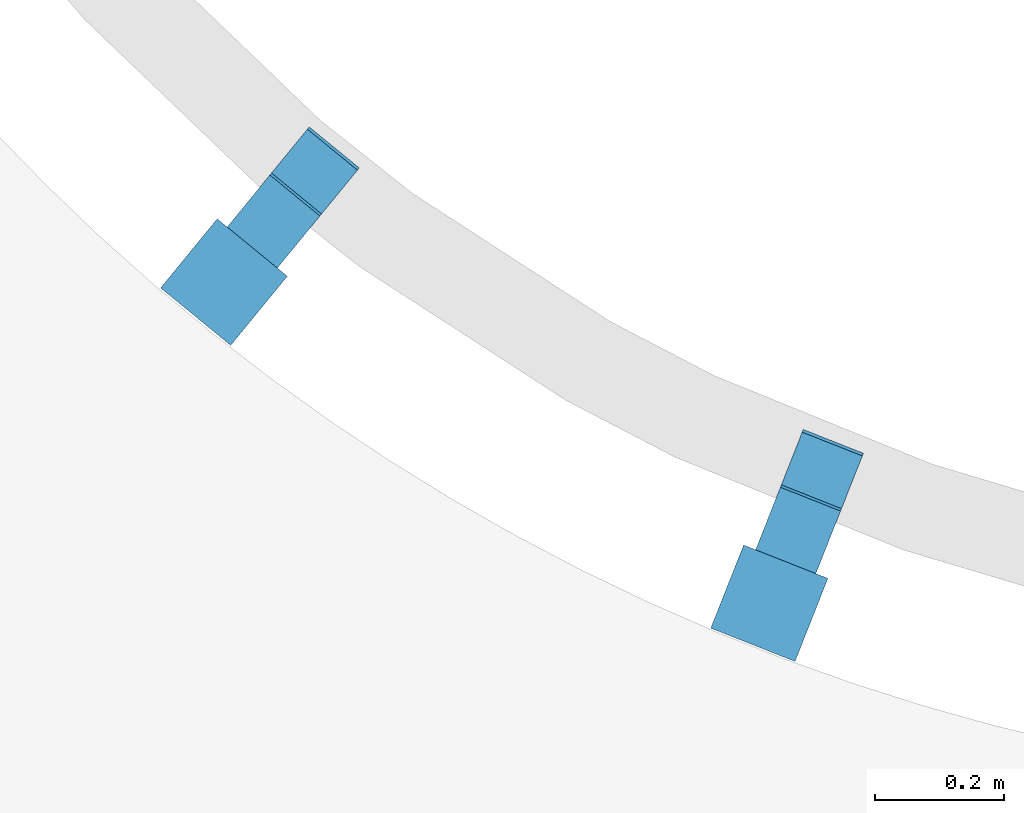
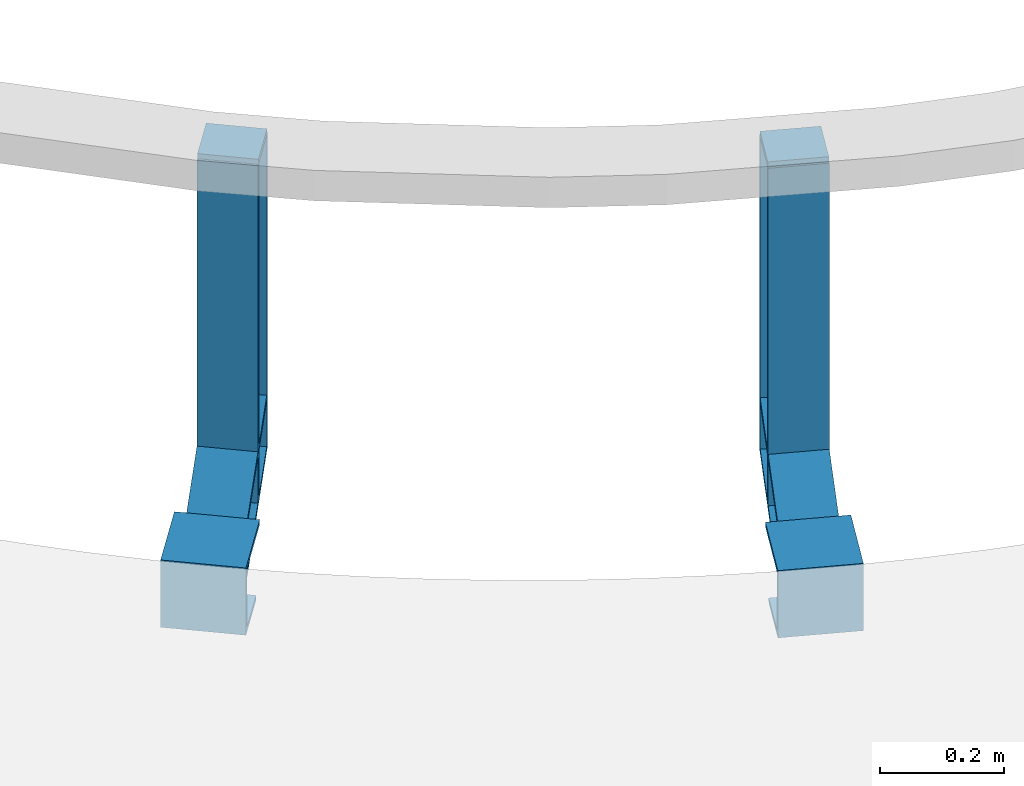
# One storey, part 32 of 68: 2 beams.
"""IFC2X3 building model written with IfcOpenShell, lengths in millimetres."""

from ifc_helpers import new_model, entity, si_unit, converted_unit, derived_unit, direction, frame, origin, place, context, subcontext, project, spatial, faceted_brep, source, transform, mapped, material, type_object, type_shapes, element, save


model = new_model("IFC2X3")

# Units and contexts
model_context = context("Model", 3, precision=0.01, world=origin(), true_north=direction((6.12303176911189e-17, 1.0)))
body_context = subcontext(model_context, "Body", "Model", "MODEL_VIEW")
ifc_project = project(units=[si_unit("LENGTHUNIT", "METRE", prefix="MILLI"), si_unit("AREAUNIT", "SQUARE_METRE", prefix="MILLI"), si_unit("VOLUMEUNIT", "CUBIC_METRE"), converted_unit("PLANEANGLEUNIT", "DEGREE", entity("IfcRatioMeasure", 0.0174532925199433), si_unit("PLANEANGLEUNIT", "RADIAN"), dimensions=[0, 0, 0, 0, 0, 0, 0]), si_unit("MASSUNIT", "GRAM", prefix="KILO"), derived_unit("MASSDENSITYUNIT", [(si_unit("MASSUNIT", "GRAM", prefix="KILO"), 1), (si_unit("LENGTHUNIT", "METRE"), -3)]), derived_unit("MOMENTOFINERTIAUNIT", [(si_unit("LENGTHUNIT", "METRE"), 4)]), si_unit("TIMEUNIT", "SECOND"), si_unit("FREQUENCYUNIT", "HERTZ"), si_unit("THERMODYNAMICTEMPERATUREUNIT", "DEGREE_CELSIUS"), derived_unit("THERMALTRANSMITTANCEUNIT", [(si_unit("MASSUNIT", "GRAM", prefix="KILO"), 1), (si_unit("THERMODYNAMICTEMPERATUREUNIT", "KELVIN"), -1), (si_unit("TIMEUNIT", "SECOND"), -3)]), derived_unit("VOLUMETRICFLOWRATEUNIT", [(si_unit("LENGTHUNIT", "METRE"), 3), (si_unit("TIMEUNIT", "SECOND"), -1)]), si_unit("ELECTRICCURRENTUNIT", "AMPERE"), si_unit("ELECTRICVOLTAGEUNIT", "VOLT"), si_unit("POWERUNIT", "WATT"), si_unit("FORCEUNIT", "NEWTON", prefix="KILO"), si_unit("ILLUMINANCEUNIT", "LUX"), si_unit("LUMINOUSFLUXUNIT", "LUMEN"), si_unit("LUMINOUSINTENSITYUNIT", "CANDELA"), derived_unit("USERDEFINED", [(si_unit("MASSUNIT", "GRAM", prefix="KILO"), -1), (si_unit("LENGTHUNIT", "METRE"), -2), (si_unit("TIMEUNIT", "SECOND"), 3), (si_unit("LUMINOUSFLUXUNIT", "LUMEN"), 1)]), derived_unit("LINEARVELOCITYUNIT", [(si_unit("LENGTHUNIT", "METRE"), 1), (si_unit("TIMEUNIT", "SECOND"), -1)]), si_unit("PRESSUREUNIT", "PASCAL"), derived_unit("USERDEFINED", [(si_unit("LENGTHUNIT", "METRE"), -2), (si_unit("MASSUNIT", "GRAM", prefix="KILO"), 1), (si_unit("TIMEUNIT", "SECOND"), -2)]), derived_unit("LINEARFORCEUNIT", [(si_unit("MASSUNIT", "GRAM", prefix="KILO"), 1), (si_unit("LENGTHUNIT", "METRE"), 1), (si_unit("TIMEUNIT", "SECOND"), -2), (si_unit("LENGTHUNIT", "METRE"), -1)]), derived_unit("PLANARFORCEUNIT", [(si_unit("MASSUNIT", "GRAM", prefix="KILO"), 1), (si_unit("LENGTHUNIT", "METRE"), 1), (si_unit("TIMEUNIT", "SECOND"), -2), (si_unit("LENGTHUNIT", "METRE"), -2)])], contexts=[model_context])

# Site, building, storey
site_placement = place(None, origin())
site = spatial("IfcSite", under=ifc_project, at=site_placement, Name="Theater aan de Parade", CompositionType="ELEMENT")
building_placement = place(site_placement, origin())
building = spatial("IfcBuilding", under=site, at=building_placement, Name="Theater aan de Parade", CompositionType="ELEMENT")
storey_placement = place(building_placement, frame((0.0, 0.0, 8750.0)))
storey = spatial("IfcBuildingStorey", under=building, at=storey_placement, Name="02 tweede verdieping", CompositionType="ELEMENT", Elevation=8750.0)

# Beams
ifc_material = material(Name="00_PBT_MAT_staal_S355")
beam_type = type_object("IfcBeamType", Name="28_PBT_SF_staal_baluster balkon:baluster HEA100", PredefinedType="BEAM", material=ifc_material)
shared_shape = source(origin(), body_context, "Body", "Brep", [
    faceted_brep([(50.0, -43.537813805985, 625.0), (50.0, 44.0, 625.0), (50.0, 44.0, 635.0), (50.0, -43.537813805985, 635.0), (-50.0, -43.537813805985, 625.0), (-50.0, -43.537813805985, 635.0), (-50.0, 44.0, 635.0), (-50.0, 44.0, 625.0)], [[[0, 1, 2, 3]], [[4, 5, 6, 7]], [[1, 0, 4, 7]], [[2, 1, 7, 6]], [[3, 2, 6, 5]], [[0, 3, 5, 4]]]),
    faceted_brep([(70.0, 278.0, -133.0), (70.0, 290.0, -133.0), (70.0, 290.0, 0.0), (70.0, 278.0, 0.0), (-70.0, 278.0, -133.0), (-70.0, 278.0, 0.0), (-70.0, 290.0, 0.0), (-70.0, 290.0, -133.0)], [[[0, 1, 2, 3]], [[4, 5, 6, 7]], [[1, 0, 4, 7]], [[2, 1, 7, 6]], [[3, 2, 6, 5]], [[0, 3, 5, 4]]]),
    faceted_brep([(14.7499999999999, 278.0, -124.5), (70.0, 278.0, -124.5), (70.0, 278.0, -133.0), (-70.0, 278.0, -133.0), (-70.0, 278.0, -124.500000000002), (-14.7500000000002, 278.0, -124.500000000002), (-11.6441714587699, 278.0, -124.091109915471), (-8.75000000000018, 278.0, -122.892304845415), (-6.26471862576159, 278.0, -120.98528137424), (-4.3576951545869, 278.0, -118.500000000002), (-3.15889008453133, 278.0, -115.605828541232), (-2.75000000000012, 278.0, -112.500000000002), (-2.75000000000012, 278.0, -20.500000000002), (-3.15889008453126, 278.0, -17.3941714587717), (-4.35769515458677, 278.0, -14.500000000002), (-6.26471862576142, 278.0, -12.0147186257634), (-8.74999999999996, 278.0, -10.1076951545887), (-11.6441714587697, 278.0, -8.90889008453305), (-14.7500000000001, 278.0, -8.50000000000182), (-70.0, 278.0, -8.50000000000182), (-70.0, 278.0, 0.0), (70.0, 278.0, 0.0), (70.0, 278.0, -8.50000000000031), (14.7499999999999, 278.0, -8.50000000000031), (11.6441714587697, 278.0, -8.90889008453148), (8.74999999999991, 278.0, -10.107695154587), (6.26471862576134, 278.0, -12.0147186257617), (4.35769515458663, 278.0, -14.5000000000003), (3.15889008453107, 278.0, -17.39417145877), (2.74999999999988, 278.0, -20.5000000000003), (2.74999999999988, 278.0, -112.5), (3.15889008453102, 278.0, -115.60582854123), (4.35769515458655, 278.0, -118.5), (6.26471862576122, 278.0, -120.985281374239), (8.74999999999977, 278.0, -122.892304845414), (11.6441714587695, 278.0, -124.091109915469), (70.0, 151.923048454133, 0.0), (70.0, 154.37480362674, -8.50000000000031), (70.0, 187.834050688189, -124.5), (70.0, 190.285805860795, -133.0), (14.7499999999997, 154.37480362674, -8.50000000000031), (14.7499999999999, 214.85290376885, -8.50000000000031), (-14.7500000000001, 214.852897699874, -8.50000000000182), (-14.7500000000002, 154.37480362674, -8.50000000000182), (-70.0, 154.37480362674, -8.50000000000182), (6.43965673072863, 216.327371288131, -11.8433150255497), (2.74999999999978, 217.521900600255, -20.5000000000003), (12.079748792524, 154.461585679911, -8.8008650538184), (9.5433951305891, 154.717580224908, -9.68837358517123), (7.26812237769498, 155.129950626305, -11.1180222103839), (5.36802221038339, 155.678018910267, -13.0181223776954), (3.05086505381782, 157.065893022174, -17.8297487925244), (2.74999999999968, 157.83610504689, -20.5000000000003), (3.9383735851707, 156.334302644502, -15.2933951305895), (2.74999999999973, 184.372749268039, -112.5), (3.93837358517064, 185.874551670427, -117.706604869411), (3.05086505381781, 185.142961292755, -115.170251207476), (5.36802221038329, 186.530835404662, -119.981877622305), (7.26812237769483, 187.078903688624, -121.881977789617), (9.54339513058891, 187.491274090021, -123.311626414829), (12.0797487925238, 187.747268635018, -124.199134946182), (14.7499999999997, 187.834050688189, -124.5), (-70.0, 187.83405068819, -124.500000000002), (-14.7500000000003, 187.83405068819, -124.500000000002), (-70.0, 190.285805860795, -133.0), (-70.0, 151.923048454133, 0.0), (-9.54339513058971, 187.491274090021, -123.311626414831), (-12.0797487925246, 187.747268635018, -124.199134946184), (-7.2681223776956, 187.078903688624, -121.881977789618), (-5.36802221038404, 186.530835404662, -119.981877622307), (-3.93837358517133, 185.874551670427, -117.706604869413), (-3.05086505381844, 185.142961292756, -115.170251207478), (-2.75000000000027, 184.37274926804, -112.500000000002), (-2.75000000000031, 157.83610504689, -20.500000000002), (-2.75000000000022, 217.521907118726, -20.5000000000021), (-6.43965718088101, 216.327373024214, -11.8433145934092), (-3.05086505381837, 157.065893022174, -17.8297487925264), (-3.93837358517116, 156.334302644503, -15.2933951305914), (-5.36802221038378, 155.678018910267, -13.0181223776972), (-7.2681223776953, 155.129950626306, -11.1180222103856), (-9.54339513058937, 154.717580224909, -9.68837358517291), (-12.0797487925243, 154.461585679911, -8.80086505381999)], [[[0, 1, 2, 3, 4, 5, 6, 7, 8, 9, 10, 11, 12, 13, 14, 15, 16, 17, 18, 19, 20, 21, 22, 23, 24, 25, 26, 27, 28, 29, 30, 31, 32, 33, 34, 35]], [[22, 21, 36, 37]], [[2, 1, 38, 39]], [[23, 22, 37, 40, 41]], [[19, 18, 42, 43, 44]], [[24, 45, 25]], [[25, 45, 26]], [[27, 45, 46]], [[41, 40, 47]], [[23, 41, 24]], [[27, 26, 45]], [[41, 47, 48]], [[45, 49, 50]], [[46, 29, 28]], [[48, 45, 41]], [[46, 28, 27]], [[51, 52, 46]], [[51, 46, 53]], [[45, 53, 46]], [[50, 53, 45]], [[48, 49, 45]], [[41, 45, 24]], [[30, 29, 46, 52, 54]], [[55, 32, 31]], [[56, 31, 30]], [[30, 54, 56]], [[32, 55, 57]], [[55, 31, 56]], [[57, 33, 32]], [[34, 33, 58]], [[35, 34, 59]], [[0, 35, 60]], [[34, 58, 59]], [[0, 60, 61]], [[60, 35, 59]], [[57, 58, 33]], [[1, 0, 61, 38]], [[5, 4, 62, 63]], [[3, 2, 39, 64]], [[4, 3, 64, 62]], [[20, 19, 44, 65]], [[66, 7, 6]], [[67, 6, 5]], [[5, 63, 67]], [[7, 66, 68]], [[66, 6, 67]], [[68, 8, 7]], [[9, 8, 69]], [[10, 9, 70]], [[11, 10, 71]], [[9, 69, 70]], [[11, 71, 72]], [[71, 10, 70]], [[68, 69, 8]], [[12, 11, 72, 73, 74]], [[74, 14, 13]], [[75, 15, 14]], [[17, 16, 75]], [[74, 73, 76]], [[16, 15, 75]], [[76, 77, 74]], [[75, 78, 79]], [[80, 81, 42]], [[77, 75, 74]], [[12, 74, 13]], [[75, 42, 17]], [[42, 18, 17]], [[42, 81, 43]], [[75, 80, 42]], [[80, 75, 79]], [[77, 78, 75]], [[75, 14, 74]], [[21, 20, 65, 36]], [[61, 60, 59, 58, 57, 55, 56, 54, 52, 51, 53, 50, 49, 48, 47, 40, 37, 36, 65, 44, 43, 81, 80, 79, 78, 77, 76, 73, 72, 71, 70, 69, 68, 66, 67, 63, 62, 64, 39, 38]]]),
    faceted_brep([(50.0, 155.119944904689, -11.0833333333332), (50.0, 151.923048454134, 0.0), (50.0, -48.0, 115.425625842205), (50.0, -48.0, 106.188021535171), (50.0, 190.285805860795, -133.0), (50.0, 187.08890941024, -121.916666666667), (50.0, -48.0, 13.8119784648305), (50.0, -48.0, 4.57437415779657), (14.4999999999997, 155.119944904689, -11.0833333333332), (14.4999999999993, -48.0, 106.188021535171), (14.4999999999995, 4.37555520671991, 75.9489806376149), (14.4999999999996, 56.7511250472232, 45.7099312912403), (-50.0, 155.119944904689, -11.0833333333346), (-14.5000000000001, 155.119944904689, -11.0833333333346), (-14.5000000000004, 56.7511361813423, 45.7099248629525), (-14.5000000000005, 4.37556274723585, 75.9489762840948), (-14.5000000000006, -48.0, 106.188021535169), (-50.0, -48.0, 106.188021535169), (12.1589161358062, 155.212086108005, -11.4027780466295), (6.13940978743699, 85.6560198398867, 25.105130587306), (9.9077988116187, 155.484968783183, -12.348836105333), (2.80086505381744, -48.0, 95.4149555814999), (2.49999999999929, -48.0, 92.3316150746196), (2.49999999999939, 4.37556701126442, 62.092567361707), (2.49999999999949, 55.164155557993, 32.7697620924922), (6.04197655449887, 10.2229142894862, 68.5459327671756), (2.49999999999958, 107.539722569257, 2.53071437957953), (2.49999999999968, 159.915289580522, -27.7083333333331), (2.73057663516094, 158.979764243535, -24.4649567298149), (7.83315720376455, 155.92810620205, -13.8851510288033), (11.8297487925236, -48.0, 105.840612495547), (3.41344560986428, 158.0801906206, -21.3462212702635), (4.52236465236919, 157.25113882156, -18.4719782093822), (7.01812237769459, -48.0, 103.164989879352), (5.11802221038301, -48.0, 100.970943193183), (3.68837358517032, -48.0, 98.3436845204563), (9.29339513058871, -48.0, 104.815805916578), (6.01471862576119, 156.524468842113, -15.9526830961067), (2.49999999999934, -48.0, 27.6683849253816), (2.49999999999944, 4.37556959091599, -2.57066427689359), (2.49999999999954, 56.7511354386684, -32.8097113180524), (2.49999999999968, 129.917998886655, -75.052619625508), (2.49999999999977, 182.293564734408, -105.291666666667), (4.52236465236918, 184.957715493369, -114.528021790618), (6.30956465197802, 103.743785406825, -70.0679088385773), (6.01471862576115, 185.684385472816, -117.047316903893), (14.4999999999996, 134.713341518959, -91.6776184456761), (9.90779881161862, 186.723885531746, -120.651163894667), (7.83315720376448, 186.280748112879, -119.114848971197), (12.1589161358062, 186.996768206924, -121.597221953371), (14.4999999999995, 69.5444547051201, -54.0523441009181), (5.87838992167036, 26.3899882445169, -24.9186641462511), (14.4999999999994, 4.3755678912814, -16.4270697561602), (5.11802221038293, -48.0, 19.0290568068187), (3.4134456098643, 184.128663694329, -111.653778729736), (2.80086505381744, -48.0, 24.5850444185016), (3.68837358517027, -48.0, 21.6563154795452), (14.4999999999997, 187.08890941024, -121.916666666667), (7.01812237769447, -48.0, 16.8350101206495), (9.29339513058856, -48.0, 15.1841940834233), (2.73057663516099, 183.229090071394, -108.535043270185), (14.4999999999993, -48.0, 13.8119784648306), (11.8297487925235, -48.0, 14.1593875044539), (-50.0, 187.088909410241, -121.916666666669), (-50.0, -48.0, 13.8119784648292), (-14.5000000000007, -48.0, 13.8119784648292), (-14.5000000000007, 4.37556899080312, -16.4270703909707), (-14.5000000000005, 69.5444561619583, -54.0523449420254), (-14.5000000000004, 134.713343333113, -91.6776194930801), (-14.5000000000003, 187.088909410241, -121.916666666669), (-50.0, 190.285805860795, -133.0), (-50.0, -48.0, 4.57437415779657), (-50.0, 151.923048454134, 0.0), (-50.0, -48.0, 115.425625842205), (-6.30956482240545, 103.743788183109, -70.0679106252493), (-3.41344560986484, 184.128663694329, -111.653778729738), (-4.52236465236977, 184.95771549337, -114.52802179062), (-2.50000000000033, 129.917999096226, -75.0526197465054), (-9.29339513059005, -48.0, 15.1841940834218), (-7.01812237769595, -48.0, 16.835010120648), (-5.87838988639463, 26.389986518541, -24.9186631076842), (-7.8331572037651, 186.28074811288, -119.114848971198), (-6.01471862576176, 185.684385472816, -117.047316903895), (-11.829748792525, -48.0, 14.1593875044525), (-5.11802221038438, -48.0, 19.0290568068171), (-2.50000000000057, 4.37557526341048, -2.57066755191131), (-2.50000000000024, 182.293564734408, -105.291666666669), (-2.7305766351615, 183.229090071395, -108.535043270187), (-9.90779881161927, 186.723885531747, -120.651163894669), (-12.1589161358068, 186.996768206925, -121.597221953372), (-2.80086505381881, -48.0, 24.5850444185), (-2.50000000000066, -48.0, 27.6683849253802), (-2.50000000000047, 56.7511409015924, -32.8097144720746), (-3.68837358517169, -48.0, 21.6563154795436), (-2.50000000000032, 159.915289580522, -27.708333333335), (-2.50000000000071, -48.0, 92.3316150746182), (-2.50000000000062, 4.37556371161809, 62.0925692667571), (-2.50000000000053, 55.1641543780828, 32.7697627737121), (-2.50000000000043, 107.539718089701, 2.53071696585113), (-2.73057663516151, 158.979764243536, -24.464956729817), (-11.8297487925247, -48.0, 105.840612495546), (-6.01471862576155, 156.524468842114, -15.9526830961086), (-6.13940988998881, 85.6560228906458, 25.1051289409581), (-7.83315720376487, 155.92810620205, -13.885151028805), (-5.11802221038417, -48.0, 100.970943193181), (-7.0181223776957, -48.0, 103.16498987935), (-6.04197656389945, 10.2229155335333, 68.5459320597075), (-9.90779881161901, 155.484968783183, -12.3488361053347), (-4.52236465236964, 157.25113882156, -18.4719782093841), (-2.80086505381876, -48.0, 95.4149555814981), (-3.68837358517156, -48.0, 98.3436845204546), (-12.1589161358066, 155.212086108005, -11.402778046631), (-3.41344560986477, 158.080190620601, -21.3462212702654), (-9.29339513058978, -48.0, 104.815805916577)], [[[0, 1, 2, 3]], [[4, 5, 6, 7]], [[8, 0, 3, 9, 10, 11]], [[12, 13, 14, 15, 16, 17]], [[18, 19, 20]], [[21, 22, 23]], [[23, 24, 25]], [[26, 27, 28]], [[29, 20, 19]], [[26, 19, 24]], [[10, 25, 11]], [[8, 11, 18]], [[18, 11, 19]], [[11, 25, 19]], [[19, 25, 24]], [[10, 9, 30]], [[31, 32, 26]], [[33, 34, 25]], [[35, 25, 34]], [[23, 25, 35]], [[33, 25, 36]], [[28, 31, 26]], [[37, 19, 32]], [[36, 10, 30]], [[19, 26, 32]], [[21, 23, 35]], [[25, 10, 36]], [[29, 19, 37]], [[27, 26, 24, 23, 22, 38, 39, 40, 41, 42]], [[43, 44, 45]], [[46, 47, 48]], [[49, 47, 46]], [[50, 51, 52]], [[51, 39, 53]], [[44, 43, 54]], [[39, 38, 55]], [[56, 39, 55]], [[46, 57, 49]], [[44, 41, 40]], [[51, 53, 58]], [[44, 48, 45]], [[58, 59, 51]], [[44, 54, 41]], [[60, 41, 54]], [[51, 44, 40]], [[61, 52, 62]], [[51, 40, 39]], [[50, 46, 44]], [[46, 48, 44]], [[53, 39, 56]], [[60, 42, 41]], [[62, 52, 59]], [[50, 44, 51]], [[59, 52, 51]], [[5, 57, 46, 50, 52, 61, 6]], [[63, 64, 65, 66, 67, 68, 69]], [[70, 4, 7, 71]], [[63, 70, 71, 64]], [[72, 12, 17, 73]], [[74, 68, 67]], [[74, 75, 76]], [[75, 74, 77]], [[78, 79, 80]], [[81, 74, 82]], [[78, 66, 83]], [[84, 85, 80]], [[77, 86, 87]], [[68, 81, 88]], [[89, 68, 88]], [[90, 91, 85]], [[80, 74, 67]], [[66, 78, 80]], [[74, 80, 92]], [[66, 65, 83]], [[92, 80, 85]], [[90, 85, 93]], [[85, 84, 93]], [[81, 68, 74]], [[79, 84, 80]], [[68, 89, 69]], [[76, 82, 74]], [[92, 77, 74]], [[75, 77, 87]], [[66, 80, 67]], [[94, 86, 77, 92, 85, 91, 95, 96, 97, 98]], [[98, 99, 94]], [[100, 16, 15]], [[101, 102, 103]], [[104, 105, 106]], [[103, 102, 107]], [[108, 102, 101]], [[102, 106, 14]], [[102, 97, 106]], [[108, 98, 102]], [[96, 109, 110]], [[102, 111, 107]], [[96, 106, 97]], [[104, 106, 110]], [[99, 98, 112]], [[106, 15, 14]], [[108, 112, 98]], [[100, 15, 113]], [[111, 102, 14]], [[110, 106, 96]], [[98, 97, 102]], [[15, 106, 113]], [[14, 13, 111]], [[113, 106, 105]], [[96, 95, 109]], [[1, 72, 73, 2]], [[61, 62, 59, 58, 53, 56, 55, 38, 22, 21, 35, 34, 33, 36, 30, 9, 3, 2, 73, 17, 16, 100, 113, 105, 104, 110, 109, 95, 91, 90, 93, 84, 79, 78, 83, 65, 64, 71, 7, 6]], [[8, 18, 20, 29, 37, 32, 31, 28, 27, 42, 60, 54, 43, 45, 48, 47, 49, 57, 5, 4, 70, 63, 69, 89, 88, 81, 82, 76, 75, 87, 86, 94, 99, 112, 108, 101, 103, 107, 111, 13, 12, 72, 1, 0]]]),
    faceted_brep([(14.4999999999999, 40.0, 625.0), (50.0, 40.0, 625.0), (50.0, 48.0, 625.0), (-50.0, 48.0, 625.0), (-50.0, 40.0, 625.0), (-14.5000000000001, 40.0, 625.0), (-11.3941714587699, 39.5911099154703, 625.0), (-8.50000000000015, 38.3923048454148, 625.0), (-6.01471862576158, 36.4852813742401, 625.0), (-4.10769515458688, 34.0, 625.0), (-2.90889008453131, 31.1058285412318, 625.0), (-2.50000000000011, 28.0, 625.0), (-2.50000000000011, -28.0, 625.0), (-2.90889008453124, -31.1058285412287, 625.0), (-4.10769515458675, -34.0, 625.0), (-6.01471862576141, -36.4852813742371, 625.0), (-8.49999999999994, -38.3923048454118, 625.0), (-11.3941714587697, -39.5911099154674, 625.0), (-14.5000000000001, -40.0, 625.0), (-50.0, -40.0, 625.0), (-50.0, -48.0, 625.0), (50.0, -48.0, 625.0), (50.0, -40.0, 625.0), (14.4999999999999, -40.0, 625.0), (11.3941714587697, -39.5911099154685, 625.0), (8.49999999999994, -38.392304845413, 625.0), (6.01471862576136, -36.4852813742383, 625.0), (4.10769515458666, -34.0, 625.0), (2.90889008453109, -31.10582854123, 625.0), (2.49999999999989, -28.0, 625.0), (2.49999999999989, 28.0, 625.0), (2.90889008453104, 31.1058285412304, 625.0), (4.10769515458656, 34.0, 625.0), (6.01471862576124, 36.4852813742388, 625.0), (8.4999999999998, 38.3923048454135, 625.0), (11.3941714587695, 39.5911099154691, 625.0), (50.0, -48.0, 165.0), (50.0, -48.0, 4.57437415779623), (50.0, -40.0, -0.0444279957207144), (50.0, 40.0, -46.2324495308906), (50.0, 48.0, -50.8512516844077), (14.4999999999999, -40.0, -0.0444279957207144), (14.4999999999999, -40.0, 60.433662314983), (14.4999999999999, -40.0, 156.216673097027), (14.4999999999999, -40.0, 234.347235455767), (14.4999999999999, -40.0, 312.477797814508), (14.4999999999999, -40.0, 390.608336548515), (14.4999999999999, -40.0, 468.738898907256), (14.4999999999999, -40.0, 564.521909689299), (-14.4999999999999, -40.0, 564.521898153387), (-14.4999999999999, -40.0, 468.738893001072), (-14.4999999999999, -40.0, 390.608339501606), (-14.4999999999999, -40.0, 312.477786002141), (-14.5, -40.0, 234.347232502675), (-14.5, -40.0, 156.21667900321), (-14.5, -40.0, 60.4336544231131), (-14.5, -40.0, -0.0444279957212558), (-50.0, -40.0, -0.0444279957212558), (6.01471822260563, -36.4852809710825, 534.282851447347), (6.38111782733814, -36.8365011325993, 422.595542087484), (2.49999999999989, -28.0, 429.969869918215), (2.49999999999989, -28.0, 504.043806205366), (7.01812237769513, -37.3819777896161, -1.55594382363), (5.87838991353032, -36.3467262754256, 83.7445110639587), (9.29339513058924, -38.8116264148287, -0.730535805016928), (2.49999999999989, -28.0, 564.521903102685), (5.11802221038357, -35.4818776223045, -2.65296716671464), (11.8297487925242, -39.6991349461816, -0.21813251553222), (5.33717277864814, -35.7487158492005, 157.721305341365), (6.03175640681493, -36.5022850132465, 273.412504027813), (2.49999999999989, -28.0, 113.983554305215), (2.80086505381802, -30.6702512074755, -5.43096097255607), (2.49999999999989, -28.0, -6.97263122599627), (2.49999999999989, -28.0, 53.5054574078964), (6.45584074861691, -36.9045775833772, 351.543056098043), (3.68837358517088, -33.2066048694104, -3.96659650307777), (2.49999999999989, -28.0, 174.461651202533), (2.49999999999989, -28.0, 234.939748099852), (2.49999999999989, -28.0, 332.454809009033), (2.49999999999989, 28.0, -39.3042463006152), (2.49999999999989, 28.0, 21.173847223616), (2.49999999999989, 28.0, 81.6519407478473), (2.49999999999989, 28.0, 171.891681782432), (2.49999999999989, 28.0, 277.489637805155), (2.49999999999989, 28.0, 383.087609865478), (2.49999999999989, 28.0, 443.56570338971), (2.49999999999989, 28.0, 504.043796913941), (2.49999999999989, 28.0, 564.521906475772), (14.4999999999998, 40.0, 564.521898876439), (6.01471890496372, 36.4852816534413, 534.282850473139), (14.4999999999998, 40.0, 457.191892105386), (14.4999999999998, 40.0, 74.7237437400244), (5.87838987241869, 36.3467262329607, 51.4128968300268), (14.4999999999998, 40.0, 14.245651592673), (7.12980766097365, 37.4699664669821, 128.3887480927), (14.4999999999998, 40.0, 182.05375948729), (5.68142979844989, 36.138354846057, 331.335798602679), (14.4999999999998, 40.0, 289.383775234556), (14.4999999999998, 40.0, 373.287833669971), (6.48410362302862, 36.9300282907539, 264.631830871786), (3.68837358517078, 33.2066048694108, -42.3102810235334), (5.11802221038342, 35.481877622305, -43.6239103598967), (11.8297487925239, 39.6991349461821, -46.058745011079), (14.4999999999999, 40.0, -46.2324495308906), (9.29339513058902, 38.8116264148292, -45.5463417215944), (7.01812237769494, 37.3819777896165, -44.7209337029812), (5.85986411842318, 36.3275477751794, 197.731198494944), (5.34384824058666, 35.7566026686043, 460.437179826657), (2.80086505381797, 30.6702512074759, -40.8459165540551), (6.59968170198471, 37.0324399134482, 396.193688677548), (-50.0, 40.0, -46.2324495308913), (-14.5000000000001, 40.0, -46.2324495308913), (-14.5000000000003, 40.0, 14.245637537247), (-14.5000000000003, 40.0, 121.575655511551), (-14.5000000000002, 40.0, 205.479712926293), (-14.5000000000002, 40.0, 289.383770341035), (-14.5000000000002, 40.0, 373.287827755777), (-14.5000000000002, 40.0, 457.191885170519), (-14.5000000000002, 40.0, 564.521903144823), (-50.0, 48.0, -50.8512516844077), (-50.0, -48.0, 4.57437415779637), (-50.0, -48.0, 165.0), (-6.01471845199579, 36.4852812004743, 534.282853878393), (-5.34384807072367, 35.7566024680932, 460.437182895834), (-2.5000000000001, 28.0, 504.043796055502), (-2.5000000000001, 28.0, 564.521888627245), (-7.01812237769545, 37.3819777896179, -44.720933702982), (-9.29339513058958, 38.8116264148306, -45.5463417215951), (-5.68142973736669, 36.1383547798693, 331.33579885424), (-6.3722320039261, 36.8283286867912, 262.824412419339), (-2.5000000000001, 28.0, 383.087610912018), (-6.59968165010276, 37.0324398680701, 396.193689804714), (-11.8297487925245, 39.6991349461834, -46.0587450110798), (-6.18948395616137, 36.6565191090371, 51.4128959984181), (-5.11802221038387, 35.4818776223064, -43.6239103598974), (-3.68837358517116, 33.2066048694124, -42.3102810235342), (-2.80086505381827, 30.6702512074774, -40.8459165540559), (-2.5000000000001, 28.0, 21.1738462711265), (-2.5000000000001, 28.0, 81.6519388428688), (-5.3518166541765, 35.7659990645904, 125.002033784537), (-2.5000000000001, 28.0, -39.3042463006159), (-2.5000000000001, 28.0, 277.489637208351), (-2.5000000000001, 28.0, 443.56570348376), (-2.5000000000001, 28.0, 171.891682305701), (-5.88018165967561, 36.3485766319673, 194.135386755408), (-2.50000000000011, -28.0, -6.97263122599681), (-2.50000000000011, -28.0, 53.5054568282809), (-2.50000000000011, -28.0, 113.983561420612), (-2.50000000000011, -28.0, 174.461666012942), (-2.50000000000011, -28.0, 234.93975406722), (-2.50000000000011, -28.0, 332.454811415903), (-2.50000000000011, -28.0, 429.969885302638), (-2.50000000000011, -28.0, 504.043823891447), (-2.50000000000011, -28.0, 564.521911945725), (-9.29339513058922, -38.8116264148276, -0.730535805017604), (-5.8783899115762, -36.3467262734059, 83.7445122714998), (-5.33717271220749, -35.7487157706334, 157.721307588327), (-6.0147187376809, -36.4852814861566, 534.282853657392), (-6.45584072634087, -36.9045775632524, 351.543059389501), (-6.38111797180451, -36.8365012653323, 422.595548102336), (-2.80086505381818, -30.6702512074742, -5.43096097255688), (-3.688373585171, -33.2066048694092, -3.96659650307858), (-5.11802221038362, -35.4818776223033, -2.65296716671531), (-7.01812237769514, -37.3819777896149, -1.55594382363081), (-6.03175635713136, -36.5022849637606, 273.412506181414), (-11.8297487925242, -39.6991349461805, -0.218132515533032)], [[[0, 1, 2, 3, 4, 5, 6, 7, 8, 9, 10, 11, 12, 13, 14, 15, 16, 17, 18, 19, 20, 21, 22, 23, 24, 25, 26, 27, 28, 29, 30, 31, 32, 33, 34, 35]], [[22, 21, 36, 37, 38]], [[2, 1, 39, 40]], [[23, 22, 38, 41, 42, 43, 44, 45, 46, 47, 48]], [[19, 18, 49, 50, 51, 52, 53, 54, 55, 56, 57]], [[58, 26, 25]], [[26, 58, 27]], [[48, 47, 58]], [[59, 60, 61]], [[62, 63, 64]], [[28, 27, 65]], [[63, 62, 66]], [[42, 41, 67]], [[68, 69, 44]], [[63, 70, 68]], [[58, 61, 65]], [[42, 63, 43]], [[68, 43, 63]], [[64, 42, 67]], [[24, 23, 48]], [[71, 72, 73]], [[25, 48, 58]], [[69, 74, 45]], [[45, 74, 46]], [[65, 27, 58]], [[24, 48, 25]], [[71, 73, 75]], [[64, 63, 42]], [[70, 63, 73]], [[73, 66, 75]], [[58, 59, 61]], [[66, 73, 63]], [[65, 29, 28]], [[44, 69, 45]], [[76, 77, 68, 70]], [[44, 43, 68]], [[77, 78, 69]], [[78, 60, 74]], [[77, 69, 68]], [[59, 46, 74]], [[59, 74, 60]], [[78, 74, 69]], [[59, 47, 46]], [[47, 59, 58]], [[30, 29, 65, 61, 60, 78, 77, 76, 70, 73, 72, 79, 80, 81, 82, 83, 84, 85, 86, 87]], [[34, 88, 35]], [[89, 90, 88]], [[91, 92, 93]], [[33, 89, 34]], [[81, 80, 92]], [[94, 91, 95]], [[32, 89, 33]], [[96, 97, 98]], [[97, 96, 99]], [[100, 101, 92]], [[87, 86, 89]], [[31, 87, 32]], [[100, 92, 80]], [[102, 103, 93]], [[102, 93, 104]], [[32, 87, 89]], [[101, 105, 92]], [[93, 105, 104]], [[106, 95, 99]], [[88, 34, 89]], [[107, 89, 86]], [[88, 0, 35]], [[80, 108, 100]], [[80, 79, 108]], [[105, 93, 92]], [[31, 30, 87]], [[106, 94, 95]], [[94, 82, 81]], [[90, 89, 107]], [[92, 94, 81]], [[91, 94, 92]], [[82, 94, 106]], [[109, 98, 90]], [[107, 85, 109]], [[84, 109, 85]], [[109, 96, 98]], [[96, 84, 83]], [[106, 83, 82]], [[99, 96, 83]], [[97, 99, 95]], [[106, 99, 83]], [[96, 109, 84]], [[107, 86, 85]], [[107, 109, 90]], [[1, 0, 88, 90, 98, 97, 95, 91, 93, 103, 39]], [[5, 4, 110, 111, 112, 113, 114, 115, 116, 117, 118]], [[3, 2, 40, 119]], [[4, 3, 119, 110]], [[20, 19, 57, 120, 121]], [[8, 7, 122]], [[7, 118, 122]], [[123, 124, 122]], [[124, 125, 122]], [[126, 112, 127]], [[6, 5, 118]], [[6, 118, 7]], [[123, 122, 117]], [[128, 115, 129]], [[128, 130, 131]], [[112, 111, 132]], [[133, 126, 134]], [[8, 122, 9]], [[133, 113, 112]], [[133, 134, 135]], [[136, 137, 135]], [[118, 117, 122]], [[135, 137, 133]], [[138, 139, 133]], [[138, 133, 137]], [[122, 125, 9]], [[137, 136, 140]], [[127, 112, 132]], [[125, 11, 10]], [[112, 126, 133]], [[10, 9, 125]], [[113, 133, 139]], [[128, 141, 130]], [[142, 124, 123]], [[123, 117, 131]], [[115, 128, 116]], [[116, 128, 131]], [[139, 138, 143]], [[144, 114, 113]], [[113, 139, 144]], [[143, 144, 139]], [[144, 141, 129]], [[115, 114, 129]], [[144, 143, 141]], [[128, 129, 141]], [[144, 129, 114]], [[116, 131, 117]], [[130, 142, 131]], [[142, 123, 131]], [[11, 125, 124, 142, 130, 141, 143, 138, 137, 140, 145, 146, 147, 148, 149, 150, 151, 152, 153, 12]], [[49, 17, 16]], [[154, 55, 155]], [[156, 147, 155]], [[157, 153, 152]], [[14, 157, 15]], [[157, 16, 15]], [[158, 51, 159]], [[157, 50, 49]], [[160, 161, 146]], [[156, 155, 54]], [[49, 18, 17]], [[13, 153, 14]], [[12, 153, 13]], [[155, 162, 163]], [[151, 158, 159]], [[14, 153, 157]], [[146, 145, 160]], [[163, 154, 155]], [[155, 147, 146]], [[146, 162, 155]], [[164, 158, 150]], [[165, 56, 55]], [[54, 155, 55]], [[49, 16, 157]], [[161, 162, 146]], [[165, 55, 154]], [[159, 50, 157]], [[152, 159, 157]], [[148, 147, 156, 149]], [[149, 156, 164]], [[53, 52, 164]], [[156, 54, 53]], [[53, 164, 156]], [[51, 158, 52]], [[149, 164, 150]], [[52, 158, 164]], [[150, 158, 151]], [[152, 151, 159]], [[159, 51, 50]], [[21, 20, 121, 120, 37, 36]], [[103, 102, 104, 105, 101, 100, 108, 79, 72, 71, 75, 66, 62, 64, 67, 41, 38, 37, 120, 57, 56, 165, 154, 163, 162, 161, 160, 145, 140, 136, 135, 134, 126, 127, 132, 111, 110, 119, 40, 39]]]),
])
type_shapes(beam_type, [shared_shape])
for number, where, z_axis, x_axis, name in (
    (1, (55995.4158848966, 23254.7043460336, -2040.0), (0.0, 0.0, 1.0), (-0.773617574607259, 0.633652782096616, 0.0), "28_PBT_SF_staal_baluster balkon:baluster HEA100"),
    (2, (56779.1342634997, 22793.1140356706, -2040.0), (0.0, 0.0, 1.0), (-0.929988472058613, 0.367588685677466, 0.0), "28_PBT_SF_staal_baluster balkon:baluster HEA100"),
):
    element("IfcBeam", number, at=place(storey_placement, frame(where, z_axis=z_axis, x_axis=x_axis)), inside=storey, type_object=beam_type, material=ifc_material, Name=name, ObjectType="28_PBT_SF_staal_baluster balkon:baluster HEA100", context=body_context, shape_type="MappedRepresentation", body=[
        mapped(shared_shape, transform((0.0, 0.0, 0.0), scale=1.0)),
    ])

save(model, "model.ifc")
